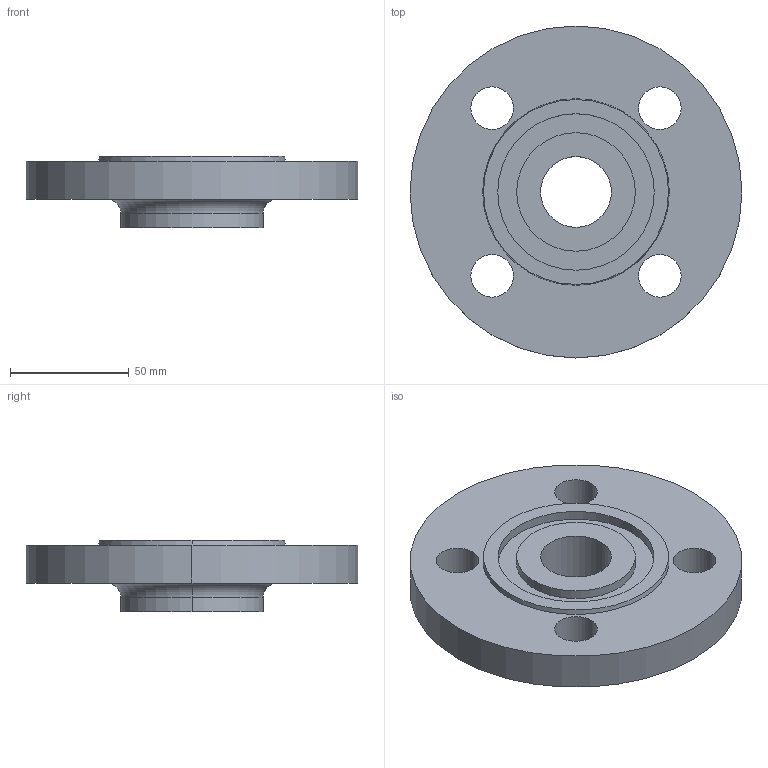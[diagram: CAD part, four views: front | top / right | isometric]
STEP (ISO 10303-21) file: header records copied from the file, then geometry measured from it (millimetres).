
FILE_DESCRIPTION (( 'STEP AP214' ), '1' );
FILE_NAME ('PN40 DN32 Type 13 - Type D Face.STEP', '2018-12-29T23:53:56', ( '' ), ( '' ), 'SwSTEP 2.0', 'SolidWorks 2019', '' );
FILE_SCHEMA (( 'AUTOMOTIVE_DESIGN' ));
Length unit declared in the file: millimetre
Products named in the file (1): PN40 DN32 Type 13 - Type D Face
Bounding box: 140 x 140 x 30 mm (x, y, z)
Volume: 248304.8 mm3; surface area: 44485.1 mm2
Topology: 1 solids, 1 shells, 28 faces, 64 edges, 42 vertices
Faces by surface type: cylinder 18, plane 6, torus 2, cone 2
Entity records: 870 total; most frequent: DIRECTION 166, CARTESIAN_POINT 135, ORIENTED_EDGE 128, AXIS2_PLACEMENT_3D 73, EDGE_CURVE 64, CIRCLE 44, EDGE_LOOP 42, VERTEX_POINT 42
